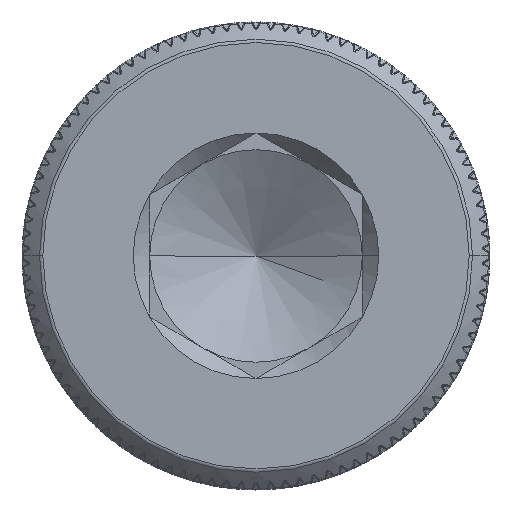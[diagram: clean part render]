
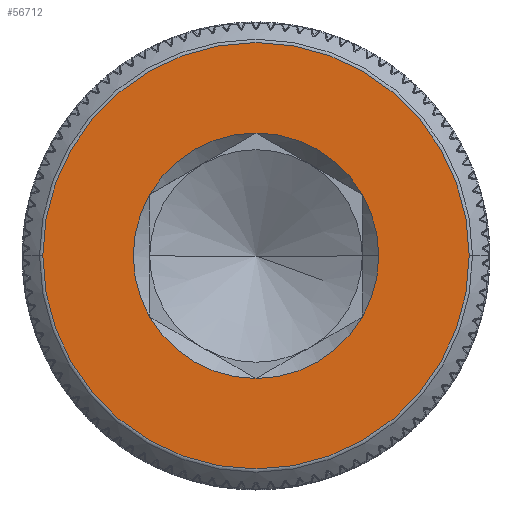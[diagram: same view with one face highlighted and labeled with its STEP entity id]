
A CAD part, top view. The second image highlights one B-rep face of the part: STEP entity #56712.
In plain terms, the highlighted planar face has unit normal (0, 0, 1).
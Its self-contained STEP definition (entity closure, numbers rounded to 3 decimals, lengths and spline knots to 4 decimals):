
#381 = EDGE_CURVE ( 'NONE', #38435, #30907, #42290, .T. ) ;
#586 = EDGE_CURVE ( 'NONE', #64230, #46141, #12987, .T. ) ;
#2413 = ORIENTED_EDGE ( 'NONE', *, *, #586, .T. ) ;
#3472 = DIRECTION ( 'NONE',  ( 0., 0., 1. ) ) ;
#3609 = DIRECTION ( 'NONE',  ( 1., 0., 0. ) ) ;
#6113 = CARTESIAN_POINT ( 'NONE',  ( 0., 0., 9. ) ) ;
#6426 = AXIS2_PLACEMENT_3D ( 'NONE', #47906, #9843, #81218 ) ;
#9012 = CARTESIAN_POINT ( 'NONE',  ( 1.25, -0.7217, 9. ) ) ;
#9843 = DIRECTION ( 'NONE',  ( 0., 0., 1. ) ) ;
#9911 = CARTESIAN_POINT ( 'NONE',  ( 0., 0., 9. ) ) ;
#10063 = EDGE_CURVE ( 'NONE', #43061, #82665, #73330, .T. ) ;
#10621 = EDGE_CURVE ( 'NONE', #30907, #69346, #75276, .T. ) ;
#12640 = DIRECTION ( 'NONE',  ( -1., 0., 0. ) ) ;
#12987 = CIRCLE ( 'NONE', #74702, 2.5072 ) ;
#15051 = EDGE_CURVE ( 'NONE', #82665, #64673, #19485, .T. ) ;
#16676 = AXIS2_PLACEMENT_3D ( 'NONE', #27174, #39297, #59072 ) ;
#17753 = CIRCLE ( 'NONE', #47774, 1.4434 ) ;
#19485 = CIRCLE ( 'NONE', #39693, 1.4434 ) ;
#19941 = CARTESIAN_POINT ( 'NONE',  ( 0., 2.5072, 9. ) ) ;
#20036 = AXIS2_PLACEMENT_3D ( 'NONE', #67953, #61980, #75523 ) ;
#20242 = AXIS2_PLACEMENT_3D ( 'NONE', #42000, #81775, #3609 ) ;
#20364 = CARTESIAN_POINT ( 'NONE',  ( -2.5072, 0., 9. ) ) ;
#22891 = EDGE_LOOP ( 'NONE', ( #72529, #69931, #83620, #70414, #52765, #71866, #81815 ) ) ;
#23487 = CARTESIAN_POINT ( 'NONE',  ( 1.4434, 0., 9. ) ) ;
#25536 = AXIS2_PLACEMENT_3D ( 'NONE', #47779, #3472, #73747 ) ;
#27174 = CARTESIAN_POINT ( 'NONE',  ( 0., 0., 9. ) ) ;
#30907 = VERTEX_POINT ( 'NONE', #56885 ) ;
#37699 = DIRECTION ( 'NONE',  ( 0., 0., 1. ) ) ;
#38435 = VERTEX_POINT ( 'NONE', #52534 ) ;
#38482 = CIRCLE ( 'NONE', #65260, 2.5072 ) ;
#39297 = DIRECTION ( 'NONE',  ( 0., 0., 1. ) ) ;
#39642 = CARTESIAN_POINT ( 'NONE',  ( 1.25, 0.7217, 9. ) ) ;
#39693 = AXIS2_PLACEMENT_3D ( 'NONE', #9911, #75065, #73935 ) ;
#39717 = CARTESIAN_POINT ( 'NONE',  ( -1.25, -0.7217, 9. ) ) ;
#41027 = DIRECTION ( 'NONE',  ( 1., 0., 0. ) ) ;
#42000 = CARTESIAN_POINT ( 'NONE',  ( 0., 0., 9. ) ) ;
#42290 = CIRCLE ( 'NONE', #20036, 1.4434 ) ;
#43061 = VERTEX_POINT ( 'NONE', #9012 ) ;
#46141 = VERTEX_POINT ( 'NONE', #56346 ) ;
#47774 = AXIS2_PLACEMENT_3D ( 'NONE', #6113, #37699, #70459 ) ;
#47779 = CARTESIAN_POINT ( 'NONE',  ( 0., 0., 9. ) ) ;
#47906 = CARTESIAN_POINT ( 'NONE',  ( 0., 0., 9. ) ) ;
#49685 = EDGE_CURVE ( 'NONE', #78058, #43061, #17753, .T. ) ;
#51441 = DIRECTION ( 'NONE',  ( 1., 0., 0. ) ) ;
#52534 = CARTESIAN_POINT ( 'NONE',  ( 0., 1.4434, 9. ) ) ;
#52765 = ORIENTED_EDGE ( 'NONE', *, *, #49685, .F. ) ;
#55058 = EDGE_LOOP ( 'NONE', ( #78932, #2413 ) ) ;
#56346 = CARTESIAN_POINT ( 'NONE',  ( 2.5072, 0., 9. ) ) ;
#56712 = ADVANCED_FACE ( 'NONE', ( #64099, #74236 ), #71601, .F. ) ;
#56885 = CARTESIAN_POINT ( 'NONE',  ( -1.25, 0.7217, 9. ) ) ;
#57678 = CARTESIAN_POINT ( 'NONE',  ( 0., 0., 9. ) ) ;
#59072 = DIRECTION ( 'NONE',  ( 1., 0., 0. ) ) ;
#61780 = EDGE_CURVE ( 'NONE', #46141, #64230, #38482, .T. ) ;
#61980 = DIRECTION ( 'NONE',  ( 0., 0., 1. ) ) ;
#62091 = CIRCLE ( 'NONE', #25536, 1.4434 ) ;
#64099 = FACE_BOUND ( 'NONE', #22891, .T. ) ;
#64203 = DIRECTION ( 'NONE',  ( 0., 0., 1. ) ) ;
#64230 = VERTEX_POINT ( 'NONE', #20364 ) ;
#64673 = VERTEX_POINT ( 'NONE', #39642 ) ;
#65014 = AXIS2_PLACEMENT_3D ( 'NONE', #19941, #77514, #12640 ) ;
#65260 = AXIS2_PLACEMENT_3D ( 'NONE', #57678, #64203, #51441 ) ;
#66467 = DIRECTION ( 'NONE',  ( 0., 0., 1. ) ) ;
#67953 = CARTESIAN_POINT ( 'NONE',  ( 0., 0., 9. ) ) ;
#69346 = VERTEX_POINT ( 'NONE', #39717 ) ;
#69931 = ORIENTED_EDGE ( 'NONE', *, *, #80113, .F. ) ;
#70414 = ORIENTED_EDGE ( 'NONE', *, *, #10063, .F. ) ;
#70459 = DIRECTION ( 'NONE',  ( 1., 0., 0. ) ) ;
#71601 = PLANE ( 'NONE',  #65014 ) ;
#71866 = ORIENTED_EDGE ( 'NONE', *, *, #78598, .F. ) ;
#72367 = CARTESIAN_POINT ( 'NONE',  ( 0., 0., 9. ) ) ;
#72529 = ORIENTED_EDGE ( 'NONE', *, *, #381, .F. ) ;
#73070 = CIRCLE ( 'NONE', #20242, 1.4434 ) ;
#73302 = CARTESIAN_POINT ( 'NONE',  ( 0., -1.4434, 9. ) ) ;
#73330 = CIRCLE ( 'NONE', #6426, 1.4434 ) ;
#73747 = DIRECTION ( 'NONE',  ( 1., 0., 0. ) ) ;
#73935 = DIRECTION ( 'NONE',  ( 1., 0., 0. ) ) ;
#74236 = FACE_OUTER_BOUND ( 'NONE', #55058, .T. ) ;
#74702 = AXIS2_PLACEMENT_3D ( 'NONE', #72367, #66467, #41027 ) ;
#75065 = DIRECTION ( 'NONE',  ( 0., 0., 1. ) ) ;
#75276 = CIRCLE ( 'NONE', #16676, 1.4434 ) ;
#75523 = DIRECTION ( 'NONE',  ( 1., 0., 0. ) ) ;
#77514 = DIRECTION ( 'NONE',  ( 0., 0., -1. ) ) ;
#78058 = VERTEX_POINT ( 'NONE', #73302 ) ;
#78598 = EDGE_CURVE ( 'NONE', #69346, #78058, #62091, .T. ) ;
#78932 = ORIENTED_EDGE ( 'NONE', *, *, #61780, .T. ) ;
#80113 = EDGE_CURVE ( 'NONE', #64673, #38435, #73070, .T. ) ;
#81218 = DIRECTION ( 'NONE',  ( 1., 0., 0. ) ) ;
#81775 = DIRECTION ( 'NONE',  ( 0., 0., 1. ) ) ;
#81815 = ORIENTED_EDGE ( 'NONE', *, *, #10621, .F. ) ;
#82665 = VERTEX_POINT ( 'NONE', #23487 ) ;
#83620 = ORIENTED_EDGE ( 'NONE', *, *, #15051, .F. ) ;
